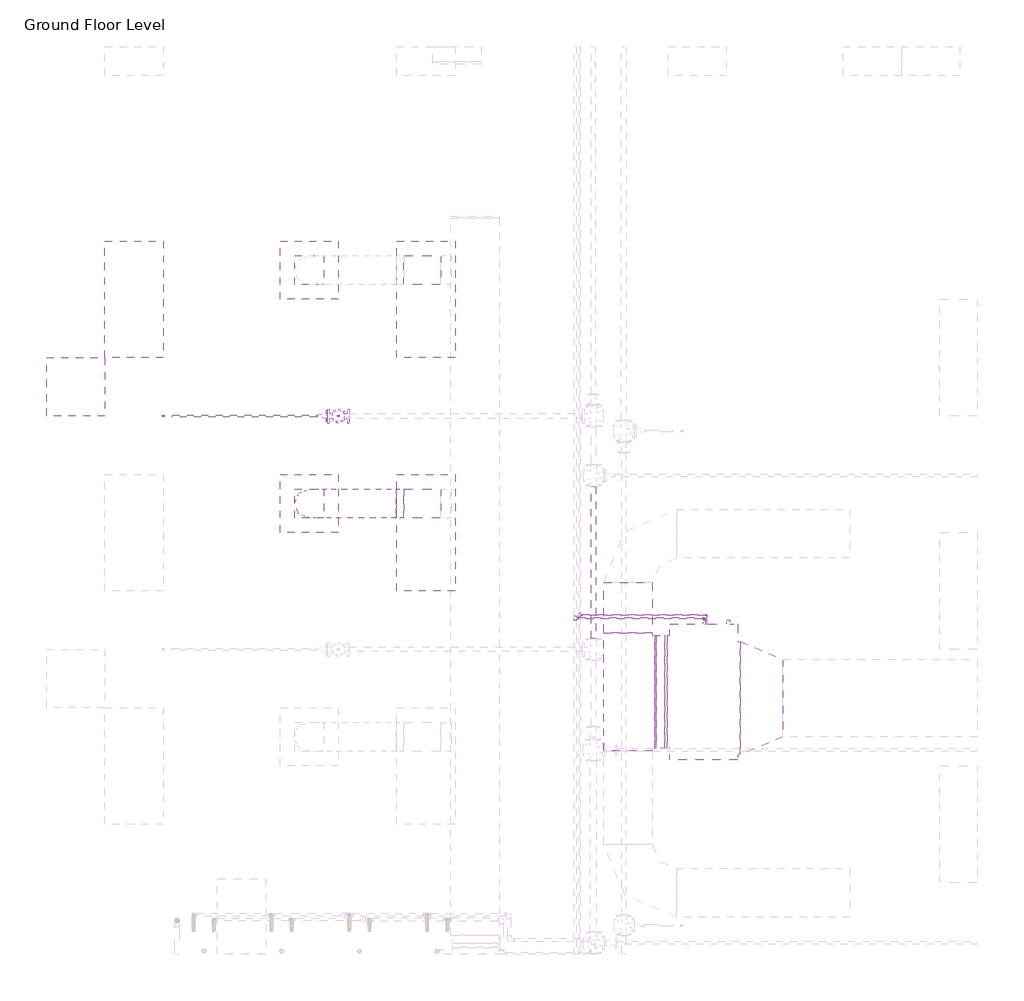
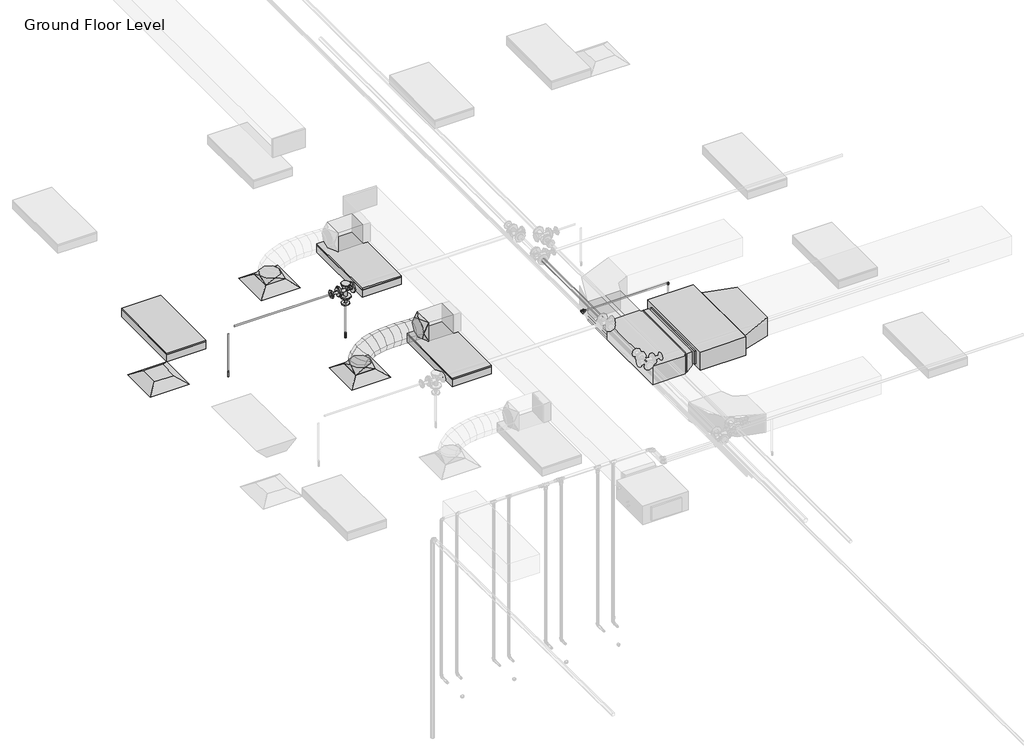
# One storey, part 25 of 66: 13 pipe fittings, 10 pipe segments, 7 duct fittings, 6 duct segments, 3 air terminals, 3 light fixtures, 2 fire suppression terminals, 1 proxy.
"""IFC4 building model written with IfcOpenShell, lengths in millimetres."""

from ifc_helpers import new_model, si_unit, point, frame, frame_2d, origin, place, context, project, spatial, polyline, circle_curve, ellipse_curve, trimmed, segment, composite_curve, outline, extrude, transform, mapped, element, save
from ifc_brep_helpers import plane_surface, cylinder_surface, advanced_brep
from components import m_return_diffuser_600_x_600_face_300_x_300_connection_ff221211, fcu_daikin_iu_5a1bd61d, m_rectangular_tee_standard_c717c13b, m_rectangular_transition_angle_45_degree_d2868699, m_rectangular_transition_angle_45_degree_3270bfc3, m_rectangular_transition_angle_45_degree_83bbb609, m_rectangular_to_round_transition_angle_45_degree_641efff0, m_sprinkler_dry_pendent_hosted_15_mm_dry_pendent_9bda8e11, m_troffer_light_parabolic_rectangular1_0600x1200mm_4_lamp_86473d4a, m_elbow_generic_standard_a088f956, m_elbow_generic_standard_2a704253, m_elbow_generic_standard_411ee063, m_elbow_generic_standard_a67d3ed8, m_reducer_flanged_cs_class_150_standard_dc68ad9d, m_tee_generic_standard_5b2ed4d4, m_tee_generic_standard_5078887e, m_tee_round_base_flanged_cs_class_150_standard_ab36f383, m_transition_generic_standard_5f8a9689, m_transition_generic_standard_bdcfe2c1, m_transition_generic_standard_44e35838, m_transition_generic_standard_570aa73b

model = new_model("IFC4")

# Units and contexts
model_context = context("Model", 3, world=origin())
ifc_project = project(units=[si_unit("LENGTHUNIT", "METRE", prefix="MILLI")], contexts=[model_context])

# Site, building, storey
site = spatial("IfcSite", under=ifc_project)
building = spatial("IfcBuilding", under=site)
storey = spatial("IfcBuildingStorey", under=building, Name="Ground Floor Level", Elevation=900.0)

# Air terminals
placement = place(None, origin())
m_return_diffuser_600_x_600_face_300_x_300_connection_shape = m_return_diffuser_600_x_600_face_300_x_300_connection_ff221211(model_context)
element("IfcAirTerminal", 1, ObjectType="M_Return Diffuser : 600 x 600 Face 300 x 300 Connection", at=placement, inside=storey, context=model_context, shape_type="MappedRepresentation", body=[
    mapped(m_return_diffuser_600_x_600_face_300_x_300_connection_shape, transform((362.7672395, -18364.7846466, 3650.0), x_axis=(1.0, 0.0, 0.0), y_axis=(0.0, 1.0, 0.0), z_axis=(0.0, 0.0, 1.0))),
])
element("IfcAirTerminal", 2, ObjectType="M_Supply Diffuser : 600 x 600 Face 300 x 300 Connection", at=placement, inside=storey, context=model_context, shape_type="MappedRepresentation", body=[
    mapped(m_return_diffuser_600_x_600_face_300_x_300_connection_shape, transform((2762.7672395, -17164.7846466, 3650.0), x_axis=(1.0, 0.0, 0.0), y_axis=(0.0, 1.0, 0.0), z_axis=(0.0, 0.0, 1.0))),
])
element("IfcAirTerminal", 3, ObjectType="M_Supply Diffuser : 600 x 600 Face 300 x 300 Connection", at=placement, inside=storey, context=model_context, shape_type="MappedRepresentation", body=[
    mapped(m_return_diffuser_600_x_600_face_300_x_300_connection_shape, transform((2762.7672395, -19564.7846466, 3650.0), x_axis=(1.0, 0.0, 0.0), y_axis=(0.0, 1.0, 0.0), z_axis=(0.0, 0.0, 1.0))),
])

# Proxy
fcu_daikin_iu_shape = fcu_daikin_iu_5a1bd61d(model_context)
element("IfcBuildingElementProxy", 4, Name="FCU-DAIKIN IU : 9kW, 230V/50Hz/1Ph", ObjectType="FCU-DAIKIN IU : 9kW, 230V/50Hz/1Ph", at=placement, inside=storey, context=model_context, shape_type="MappedRepresentation", body=[
    mapped(fcu_daikin_iu_shape, transform((6820.4959647, -21503.0689179, 3984.0882279), x_axis=(0.0, 1.0, 0.0), y_axis=(-1.0, 0.0, 0.0), z_axis=(0.0, 0.0, 1.0))),
])

# Duct fittings
m_rectangular_tee_standard_shape = m_rectangular_tee_standard_c717c13b(model_context)
element("IfcDuctFitting", 5, ObjectType="M_Rectangular Tee : Standard", at=placement, inside=storey, context=model_context, shape_type="MappedRepresentation", body=[
    mapped(m_rectangular_tee_standard_shape, transform((6040.9973279, -21503.0689179, 4082.4405262), x_axis=(0.0, -1.0, 0.0), y_axis=(-1.0, 0.0, 0.0), z_axis=(0.0, 0.0, -1.0))),
])
m_rectangular_transition_angle_45_degree_shape = m_rectangular_transition_angle_45_degree_d2868699(model_context)
element("IfcDuctFitting", 6, ObjectType="M_Rectangular Transition - Angle : 45 Degree", at=placement, inside=storey, context=model_context, shape_type="MappedRepresentation", body=[
    mapped(m_rectangular_transition_angle_45_degree_shape, transform((7195.8959647, -21566.5689179, 4150.0007279), x_axis=(1.0, 0.0, 0.0), y_axis=(0.0, 1.0, 0.0), z_axis=(0.0, 0.0, 1.0))),
])
m_rectangular_transition_angle_45_degree_2_shape = m_rectangular_transition_angle_45_degree_3270bfc3(model_context)
element("IfcDuctFitting", 7, ObjectType="M_Rectangular Transition - Angle : 45 Degree", at=placement, inside=storey, context=model_context, shape_type="MappedRepresentation", body=[
    mapped(m_rectangular_transition_angle_45_degree_2_shape, transform((6445.0959647, -21503.0689179, 4125.2882279), x_axis=(-1.0, 0.0, 0.0), y_axis=(0.0, -1.0, 0.0), z_axis=(0.0, 0.0, 1.0))),
])
m_rectangular_transition_angle_45_degree_3_shape = m_rectangular_transition_angle_45_degree_83bbb609(model_context)
element("IfcDuctFitting", 8, ObjectType="M_Rectangular Transition - Angle : 45 Degree", at=placement, inside=storey, context=model_context, shape_type="MappedRepresentation", body=[
    mapped(m_rectangular_transition_angle_45_degree_3_shape, transform((6416.9897764, -21503.0689179, 4125.4405264), x_axis=(-1.0, 0.0, 0.0), y_axis=(0.0, -1.0, 0.0), z_axis=(0.0, 0.0, 1.0))),
])
m_rectangular_to_round_transition_angle_45_degree_shape = m_rectangular_to_round_transition_angle_45_degree_641efff0(model_context)
element("IfcDuctFitting", 9, ObjectType="M_Rectangular to Round Transition - Angle : 45 Degree", at=placement, inside=storey, context=model_context, shape_type="MappedRepresentation", body=[
    mapped(m_rectangular_to_round_transition_angle_45_degree_shape, transform((2762.7672395, -17164.7846466, 3751.6), x_axis=(0.0, 0.0, 1.0), y_axis=(-1.0, 0.0, 0.0), z_axis=(0.0, -1.0, 0.0))),
])
element("IfcDuctFitting", 10, ObjectType="M_Rectangular to Round Transition - Angle : 45 Degree", at=placement, inside=storey, context=model_context, shape_type="MappedRepresentation", body=[
    mapped(m_rectangular_to_round_transition_angle_45_degree_shape, transform((2762.7672395, -19564.7846466, 3751.6), x_axis=(0.0, 0.0, 1.0), y_axis=(-1.0, 0.0, 0.0), z_axis=(0.0, -1.0, 0.0))),
])
element("IfcDuctFitting", 11, ObjectType="M_Rectangular to Round Transition - Angle : 45 Degree", at=placement, inside=storey, context=model_context, shape_type="MappedRepresentation", body=[
    mapped(m_rectangular_to_round_transition_angle_45_degree_shape, transform((3732.9552689, -19564.7846466, 4057.1479019), x_axis=(-1.0, 0.0, 0.0), y_axis=(0.0, -1.0, 0.0), z_axis=(0.0, 0.0, 1.0))),
])

# Duct segments
element("IfcDuctSegment", 12, ObjectType="Flex - Round", at=placement, inside=storey, context=model_context, shape_type="AdvancedBrep", body=[
    advanced_brep(
    [(2912.7672395, -19564.7846466, 3826.6), (2762.7672395, -19714.7846466, 3826.6), (2612.7672395, -19564.7846466, 3826.6), (2762.7672395, -19414.7846466, 3826.6), (2912.7672395, -19564.7846466, 3832.8904098), (2762.7672395, -19714.7846466, 3856.8495224), (2612.7672395, -19564.7846466, 3880.8086351), (2762.7672395, -19414.7846466, 3856.8495224), (2914.0858346, -19564.7846466, 3836.9127437), (2779.5129112, -19714.7846466, 3907.9316792), (2644.9399878, -19564.7846466, 3978.9506146), (2779.5129112, -19414.7846466, 3907.9316792), (2928.1335887, -19564.7846466, 3855.2238886), (2826.2860191, -19714.7846466, 3968.9000837), (2724.4384494, -19564.7846466, 4082.5762788), (2826.2860191, -19414.7846466, 3968.9000837), (2960.0751433, -19564.7846466, 3874.5771306), (2897.8907021, -19714.7846466, 4012.2850341), (2835.706261, -19564.7846466, 4149.9929377), (2897.8907021, -19414.7846466, 4012.2850341), (3023.3472749, -19564.7846466, 3894.3973079), (2989.1310994, -19714.7846466, 4040.8663511), (2954.9149239, -19564.7846466, 4187.3353943), (2989.1310994, -19414.7846466, 4040.8663511), (3111.2181676, -19564.7846466, 3908.1645223), (3094.81135, -19714.7846466, 4057.4238552), (3078.4045323, -19564.7846466, 4206.6831881), (3094.81135, -19414.7846466, 4057.4238552), (3215.0384102, -19564.7846466, 3914.7714012), (3209.7355929, -19714.7846466, 4064.7373669), (3204.4327755, -19564.7846466, 4214.7033325), (3209.7355929, -19414.7846466, 4064.7373669), (3327.4389939, -19564.7846466, 3915.5738253), (3328.7079672, -19714.7846466, 4065.5867068), (3329.9769404, -19564.7846466, 4215.5995883), (3328.7079672, -19414.7846466, 4065.5867068), (3442.2140413, -19564.7846466, 3912.8121913), (3446.5326119, -19714.7846466, 4062.7516956), (3450.8511825, -19564.7846466, 4212.6911999), (3446.5326119, -19414.7846466, 4062.7516956), (3554.0600336, -19564.7846466, 3909.0604079), (3558.0136661, -19714.7846466, 4059.0121538), (3561.9672986, -19564.7846466, 4208.9638996), (3558.0136661, -19414.7846466, 4059.0121538), (3657.9552689, -19564.7846466, 3907.1479019), (3657.9552689, -19414.7846466, 4057.1479019), (3657.9552689, -19564.7846466, 4207.1479019), (3657.9552689, -19714.7846466, 4057.1479019), (3653.7185823, -19564.7846466, 3907.1479019), (3655.1577438, -19714.7846466, 4057.1479019), (3656.5969053, -19564.7846466, 4207.1479019), (3655.1577438, -19414.7846466, 4057.1479019)],
    [
        (0, 1, circle_curve(frame((2762.7672395, -19564.7846466, 3826.6), z_axis=(0.0, 0.0, -1.0), x_axis=(1.0, 0.0, 0.0)), 150.0)),
        (1, 2, circle_curve(frame((2762.7672395, -19564.7846466, 3826.6), z_axis=(0.0, 0.0, -1.0), x_axis=(1.0, 0.0, 0.0)), 150.0)),
        (2, 3, circle_curve(frame((2762.7672395, -19564.7846466, 3826.6), z_axis=(0.0, 0.0, -1.0), x_axis=(1.0, 0.0, 0.0)), 150.0)),
        (3, 0, circle_curve(frame((2762.7672395, -19564.7846466, 3826.6), z_axis=(0.0, 0.0, -1.0), x_axis=(1.0, 0.0, 0.0)), 150.0)),
        (0, 4),
        (4, 5, ellipse_curve(frame((2762.7672395, -19564.7846466, 3856.8495224), z_axis=(-0.157728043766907, 0.0, -0.9874825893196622), x_axis=(0.9874825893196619, 0.0, -0.15772804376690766)), 151.9014124, 150.0)),
        (5, 1),
        (5, 6, ellipse_curve(frame((2762.7672395, -19564.7846466, 3856.8495224), z_axis=(-0.157728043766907, 0.0, -0.9874825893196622), x_axis=(0.9874825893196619, 0.0, -0.15772804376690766)), 151.9014124, 150.0)),
        (6, 2),
        (6, 7, ellipse_curve(frame((2762.7672395, -19564.7846466, 3856.8495224), z_axis=(-0.157728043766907, 0.0, -0.9874825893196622), x_axis=(0.9874825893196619, 0.0, -0.15772804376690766)), 151.9014124, 150.0)),
        (7, 3),
        (7, 4, ellipse_curve(frame((2762.7672395, -19564.7846466, 3856.8495224), z_axis=(-0.157728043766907, 0.0, -0.9874825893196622), x_axis=(0.9874825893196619, 0.0, -0.15772804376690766)), 151.9014124, 150.0)),
        (4, 8),
        (8, 9, ellipse_curve(frame((2779.5129112, -19564.7846466, 3907.9316792), z_axis=(-0.4667295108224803, 0.0, -0.8844001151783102), x_axis=(0.8844001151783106, 0.0, -0.46672951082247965)), 152.162942, 150.0)),
        (9, 5),
        (9, 10, ellipse_curve(frame((2779.5129112, -19564.7846466, 3907.9316792), z_axis=(-0.4667295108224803, 0.0, -0.8844001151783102), x_axis=(0.8844001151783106, 0.0, -0.46672951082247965)), 152.162942, 150.0)),
        (10, 6),
        (10, 11, ellipse_curve(frame((2779.5129112, -19564.7846466, 3907.9316792), z_axis=(-0.4667295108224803, 0.0, -0.8844001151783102), x_axis=(0.8844001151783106, 0.0, -0.46672951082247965)), 152.162942, 150.0)),
        (11, 7),
        (11, 8, ellipse_curve(frame((2779.5129112, -19564.7846466, 3907.9316792), z_axis=(-0.4667295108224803, 0.0, -0.8844001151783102), x_axis=(0.8844001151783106, 0.0, -0.46672951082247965)), 152.162942, 150.0)),
        (8, 12),
        (12, 13, ellipse_curve(frame((2826.2860191, -19564.7846466, 3968.9000837), z_axis=(-0.7447941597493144, 0.0, -0.667294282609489), x_axis=(0.6672942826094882, 0.0, -0.7447941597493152)), 152.6276671, 150.0)),
        (13, 9),
        (13, 14, ellipse_curve(frame((2826.2860191, -19564.7846466, 3968.9000837), z_axis=(-0.7447941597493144, 0.0, -0.667294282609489), x_axis=(0.6672942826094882, 0.0, -0.7447941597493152)), 152.6276671, 150.0)),
        (14, 10),
        (14, 15, ellipse_curve(frame((2826.2860191, -19564.7846466, 3968.9000837), z_axis=(-0.7447941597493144, 0.0, -0.667294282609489), x_axis=(0.6672942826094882, 0.0, -0.7447941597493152)), 152.6276671, 150.0)),
        (15, 11),
        (15, 12, ellipse_curve(frame((2826.2860191, -19564.7846466, 3968.9000837), z_axis=(-0.7447941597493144, 0.0, -0.667294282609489), x_axis=(0.6672942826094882, 0.0, -0.7447941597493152)), 152.6276671, 150.0)),
        (12, 16),
        (16, 17, ellipse_curve(frame((2897.8907021, -19564.7846466, 4012.2850341), z_axis=(-0.9113860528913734, 0.0, -0.4115525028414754), x_axis=(0.4115525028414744, 0.0, -0.911386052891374)), 151.097225, 150.0)),
        (17, 13),
        (17, 18, ellipse_curve(frame((2897.8907021, -19564.7846466, 4012.2850341), z_axis=(-0.9113860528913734, 0.0, -0.4115525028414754), x_axis=(0.4115525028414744, 0.0, -0.911386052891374)), 151.097225, 150.0)),
        (18, 14),
        (18, 19, ellipse_curve(frame((2897.8907021, -19564.7846466, 4012.2850341), z_axis=(-0.9113860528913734, 0.0, -0.4115525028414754), x_axis=(0.4115525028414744, 0.0, -0.911386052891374)), 151.097225, 150.0)),
        (19, 15),
        (19, 16, ellipse_curve(frame((2897.8907021, -19564.7846466, 4012.2850341), z_axis=(-0.9113860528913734, 0.0, -0.4115525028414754), x_axis=(0.4115525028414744, 0.0, -0.911386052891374)), 151.097225, 150.0)),
        (16, 20),
        (20, 21, ellipse_curve(frame((2989.1310994, -19564.7846466, 4040.8663511), z_axis=(-0.9737822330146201, 0.0, -0.2274822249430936), x_axis=(0.22748222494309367, 0.0, -0.9737822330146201)), 150.4125237, 150.0)),
        (21, 17),
        (21, 22, ellipse_curve(frame((2989.1310994, -19564.7846466, 4040.8663511), z_axis=(-0.9737822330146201, 0.0, -0.2274822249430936), x_axis=(0.22748222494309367, 0.0, -0.9737822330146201)), 150.4125237, 150.0)),
        (22, 18),
        (22, 23, ellipse_curve(frame((2989.1310994, -19564.7846466, 4040.8663511), z_axis=(-0.9737822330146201, 0.0, -0.2274822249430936), x_axis=(0.22748222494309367, 0.0, -0.9737822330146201)), 150.4125237, 150.0)),
        (23, 19),
        (23, 20, ellipse_curve(frame((2989.1310994, -19564.7846466, 4040.8663511), z_axis=(-0.9737822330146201, 0.0, -0.2274822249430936), x_axis=(0.22748222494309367, 0.0, -0.9737822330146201)), 150.4125237, 150.0)),
        (20, 24),
        (24, 25, ellipse_curve(frame((3094.81135, -19564.7846466, 4057.4238552), z_axis=(-0.9940128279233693, 0.0, -0.10926343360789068), x_axis=(0.10926343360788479, 0.0, -0.9940128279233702)), 150.1583568, 150.0)),
        (25, 21),
        (25, 26, ellipse_curve(frame((3094.81135, -19564.7846466, 4057.4238552), z_axis=(-0.9940128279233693, 0.0, -0.10926343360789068), x_axis=(0.10926343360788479, 0.0, -0.9940128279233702)), 150.1583568, 150.0)),
        (26, 22),
        (26, 27, ellipse_curve(frame((3094.81135, -19564.7846466, 4057.4238552), z_axis=(-0.9940128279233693, 0.0, -0.10926343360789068), x_axis=(0.10926343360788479, 0.0, -0.9940128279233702)), 150.1583568, 150.0)),
        (27, 23),
        (27, 24, ellipse_curve(frame((3094.81135, -19564.7846466, 4057.4238552), z_axis=(-0.9940128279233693, 0.0, -0.10926343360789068), x_axis=(0.10926343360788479, 0.0, -0.9940128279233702)), 150.1583568, 150.0)),
        (24, 28),
        (28, 29, ellipse_curve(frame((3209.7355929, -19564.7846466, 4064.7373669), z_axis=(-0.9993754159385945, 0.0, -0.03533805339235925), x_axis=(0.03533805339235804, 0.0, -0.9993754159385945)), 150.0596906, 150.0)),
        (29, 25),
        (29, 30, ellipse_curve(frame((3209.7355929, -19564.7846466, 4064.7373669), z_axis=(-0.9993754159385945, 0.0, -0.03533805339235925), x_axis=(0.03533805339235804, 0.0, -0.9993754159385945)), 150.0596906, 150.0)),
        (30, 26),
        (30, 31, ellipse_curve(frame((3209.7355929, -19564.7846466, 4064.7373669), z_axis=(-0.9993754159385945, 0.0, -0.03533805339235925), x_axis=(0.03533805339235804, 0.0, -0.9993754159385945)), 150.0596906, 150.0)),
        (31, 27),
        (31, 28, ellipse_curve(frame((3209.7355929, -19564.7846466, 4064.7373669), z_axis=(-0.9993754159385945, 0.0, -0.03533805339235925), x_axis=(0.03533805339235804, 0.0, -0.9993754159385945)), 150.0596906, 150.0)),
        (28, 32),
        (32, 33, ellipse_curve(frame((3328.7079672, -19564.7846466, 4065.5867068), z_axis=(-0.9999642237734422, 0.0, 0.008458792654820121), x_axis=(-0.008458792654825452, 0.0, -0.9999642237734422)), 150.0182486, 150.0)),
        (33, 29),
        (33, 34, ellipse_curve(frame((3328.7079672, -19564.7846466, 4065.5867068), z_axis=(-0.9999642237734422, 0.0, 0.008458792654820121), x_axis=(-0.008458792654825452, 0.0, -0.9999642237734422)), 150.0182486, 150.0)),
        (34, 30),
        (34, 35, ellipse_curve(frame((3328.7079672, -19564.7846466, 4065.5867068), z_axis=(-0.9999642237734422, 0.0, 0.008458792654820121), x_axis=(-0.008458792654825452, 0.0, -0.9999642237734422)), 150.0182486, 150.0)),
        (35, 31),
        (35, 32, ellipse_curve(frame((3328.7079672, -19564.7846466, 4065.5867068), z_axis=(-0.9999642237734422, 0.0, 0.008458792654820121), x_axis=(-0.008458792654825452, 0.0, -0.9999642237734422)), 150.0182486, 150.0)),
        (32, 36),
        (36, 37, ellipse_curve(frame((3446.5326119, -19564.7846466, 4062.7516956), z_axis=(-0.9995854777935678, 0.0, 0.02879014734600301), x_axis=(-0.028790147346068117, 0.0, -0.999585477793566)), 150.0016833, 150.0)),
        (37, 33),
        (37, 38, ellipse_curve(frame((3446.5326119, -19564.7846466, 4062.7516956), z_axis=(-0.9995854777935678, 0.0, 0.02879014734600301), x_axis=(-0.028790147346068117, 0.0, -0.999585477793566)), 150.0016833, 150.0)),
        (38, 34),
        (38, 39, ellipse_curve(frame((3446.5326119, -19564.7846466, 4062.7516956), z_axis=(-0.9995854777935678, 0.0, 0.02879014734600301), x_axis=(-0.028790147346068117, 0.0, -0.999585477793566)), 150.0016833, 150.0)),
        (39, 35),
        (39, 36, ellipse_curve(frame((3446.5326119, -19564.7846466, 4062.7516956), z_axis=(-0.9995854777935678, 0.0, 0.02879014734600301), x_axis=(-0.028790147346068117, 0.0, -0.999585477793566)), 150.0016833, 150.0)),
        (36, 40),
        (40, 41, ellipse_curve(frame((3558.0136661, -19564.7846466, 4059.0121538), z_axis=(-0.999652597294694, 0.0, 0.026356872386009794), x_axis=(0.02635687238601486, 0.0, 0.9996525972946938)), 150.0038576, 150.0)),
        (41, 37),
        (41, 42, ellipse_curve(frame((3558.0136661, -19564.7846466, 4059.0121538), z_axis=(-0.999652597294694, 0.0, 0.026356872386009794), x_axis=(0.02635687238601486, 0.0, 0.9996525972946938)), 150.0038576, 150.0)),
        (42, 38),
        (42, 43, ellipse_curve(frame((3558.0136661, -19564.7846466, 4059.0121538), z_axis=(-0.999652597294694, 0.0, 0.026356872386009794), x_axis=(0.02635687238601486, 0.0, 0.9996525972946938)), 150.0038576, 150.0)),
        (43, 39),
        (43, 40, ellipse_curve(frame((3558.0136661, -19564.7846466, 4059.0121538), z_axis=(-0.999652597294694, 0.0, 0.026356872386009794), x_axis=(0.02635687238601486, 0.0, 0.9996525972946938)), 150.0038576, 150.0)),
        (44, 45, circle_curve(frame((3657.9552689, -19564.7846466, 4057.1479019), z_axis=(1.0, 0.0, 0.0), x_axis=(0.0, 0.0, -1.0)), 150.0)),
        (45, 46, circle_curve(frame((3657.9552689, -19564.7846466, 4057.1479019), z_axis=(1.0, 0.0, 0.0), x_axis=(0.0, 0.0, -1.0)), 150.0)),
        (46, 47, circle_curve(frame((3657.9552689, -19564.7846466, 4057.1479019), z_axis=(1.0, 0.0, 0.0), x_axis=(0.0, 0.0, -1.0)), 150.0)),
        (47, 44, circle_curve(frame((3657.9552689, -19564.7846466, 4057.1479019), z_axis=(1.0, 0.0, 0.0), x_axis=(0.0, 0.0, -1.0)), 150.0)),
        (40, 48),
        (48, 49, ellipse_curve(frame((3655.1577438, -19564.7846466, 4057.1479019), z_axis=(-0.9999539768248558, 0.0, 0.009593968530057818), x_axis=(0.009593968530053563, 0.0, 0.9999539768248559)), 150.0069038, 150.0)),
        (49, 41),
        (49, 50, ellipse_curve(frame((3655.1577438, -19564.7846466, 4057.1479019), z_axis=(-0.9999539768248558, 0.0, 0.009593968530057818), x_axis=(0.009593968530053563, 0.0, 0.9999539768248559)), 150.0069038, 150.0)),
        (50, 42),
        (50, 51, ellipse_curve(frame((3655.1577438, -19564.7846466, 4057.1479019), z_axis=(-0.9999539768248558, 0.0, 0.009593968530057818), x_axis=(0.009593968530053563, 0.0, 0.9999539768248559)), 150.0069038, 150.0)),
        (51, 43),
        (51, 48, ellipse_curve(frame((3655.1577438, -19564.7846466, 4057.1479019), z_axis=(-0.9999539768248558, 0.0, 0.009593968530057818), x_axis=(0.009593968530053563, 0.0, 0.9999539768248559)), 150.0069038, 150.0)),
        (48, 44),
        (47, 49),
        (46, 50),
        (45, 51),
    ],
    [
        plane_surface(frame((2762.7672395, -19714.7846466, 3826.6), z_axis=(0.0, 0.0, -1.0), x_axis=(1.0, 0.0, 0.0))),
        cylinder_surface(frame((2762.7672395, -19564.7846466, 3826.6), z_axis=(0.0, 0.0, -1.0), x_axis=(1.0, 0.0, 0.0)), 150.0),
        cylinder_surface(frame((2762.7672395, -19564.7846466, 3856.8495224), z_axis=(-0.3115073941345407, 0.0, -0.9502437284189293), x_axis=(0.9502437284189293, 0.0, -0.3115073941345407)), 150.0),
        cylinder_surface(frame((2779.5129112, -19564.7846466, 3907.9316792), z_axis=(-0.6086828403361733, 0.0, -0.7934136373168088), x_axis=(0.7934136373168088, 0.0, -0.6086828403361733)), 150.0),
        cylinder_surface(frame((2826.2860191, -19564.7846466, 3968.9000837), z_axis=(-0.8552604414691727, 0.0, -0.5181983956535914), x_axis=(0.5181983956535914, 0.0, -0.8552604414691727)), 150.0),
        cylinder_surface(frame((2897.8907021, -19564.7846466, 4012.2850341), z_axis=(-0.9542752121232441, 0.0, -0.29892945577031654), x_axis=(0.29892945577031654, 0.0, -0.9542752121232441)), 150.0),
        cylinder_surface(frame((2989.1310994, -19564.7846466, 4040.8663511), z_axis=(-0.9879478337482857, 0.0, -0.1547872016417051), x_axis=(0.1547872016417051, 0.0, -0.9879478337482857)), 150.0),
        cylinder_surface(frame((3094.81135, -19564.7846466, 4057.4238552), z_axis=(-0.9979812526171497, 0.0, -0.06350920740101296), x_axis=(0.06350920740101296, 0.0, -0.9979812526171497)), 150.0),
        cylinder_surface(frame((3209.7355929, -19564.7846466, 4064.7373669), z_axis=(-0.999974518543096, 0.0, -0.007138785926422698), x_axis=(0.007138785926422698, 0.0, -0.999974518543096)), 150.0),
        cylinder_surface(frame((3328.7079672, -19564.7846466, 4065.5867068), z_axis=(-0.9997106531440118, 0.0, 0.024054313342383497), x_axis=(-0.024054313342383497, 0.0, -0.9997106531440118)), 150.0),
        cylinder_surface(frame((3446.5326119, -19564.7846466, 4062.7516956), z_axis=(-0.9994378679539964, 0.0, 0.0335253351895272), x_axis=(-0.0335253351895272, 0.0, -0.9994378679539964)), 150.0),
        plane_surface(frame((3657.9552689, -19564.7846466, 3907.1479019), z_axis=(1.0, 0.0, 0.0), x_axis=(0.0, 1.0, 0.0))),
        cylinder_surface(frame((3558.0136661, -19564.7846466, 4059.0121538), z_axis=(-0.9998159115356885, 0.0, 0.01918705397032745), x_axis=(-0.01918705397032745, 0.0, -0.9998159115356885)), 150.0),
        cylinder_surface(frame((3655.1577438, -19564.7846466, 4057.1479019), z_axis=(-1.0, 0.0, 0.0), x_axis=(0.0, 0.0, -1.0)), 150.0),
    ],
    [
        (0, [[1, 2, 3, 4]]),
        (1, [[-1, 5, 6, 7]]),
        (1, [[-2, -7, 8, 9]]),
        (1, [[-3, -9, 10, 11]]),
        (1, [[-4, -11, 12, -5]]),
        (2, [[-6, 13, 14, 15]]),
        (2, [[-8, -15, 16, 17]]),
        (2, [[-10, -17, 18, 19]]),
        (2, [[-12, -19, 20, -13]]),
        (3, [[-14, 21, 22, 23]]),
        (3, [[-16, -23, 24, 25]]),
        (3, [[-18, -25, 26, 27]]),
        (3, [[-20, -27, 28, -21]]),
        (4, [[-22, 29, 30, 31]]),
        (4, [[-24, -31, 32, 33]]),
        (4, [[-26, -33, 34, 35]]),
        (4, [[-28, -35, 36, -29]]),
        (5, [[-30, 37, 38, 39]]),
        (5, [[-32, -39, 40, 41]]),
        (5, [[-34, -41, 42, 43]]),
        (5, [[-36, -43, 44, -37]]),
        (6, [[-38, 45, 46, 47]]),
        (6, [[-40, -47, 48, 49]]),
        (6, [[-42, -49, 50, 51]]),
        (6, [[-44, -51, 52, -45]]),
        (7, [[-46, 53, 54, 55]]),
        (7, [[-48, -55, 56, 57]]),
        (7, [[-50, -57, 58, 59]]),
        (7, [[-52, -59, 60, -53]]),
        (8, [[-54, 61, 62, 63]]),
        (8, [[-56, -63, 64, 65]]),
        (8, [[-58, -65, 66, 67]]),
        (8, [[-60, -67, 68, -61]]),
        (9, [[-62, 69, 70, 71]]),
        (9, [[-64, -71, 72, 73]]),
        (9, [[-66, -73, 74, 75]]),
        (9, [[-68, -75, 76, -69]]),
        (10, [[-70, 77, 78, 79]]),
        (10, [[-72, -79, 80, 81]]),
        (10, [[-74, -81, 82, 83]]),
        (10, [[-76, -83, 84, -77]]),
        (11, [[85, 86, 87, 88]]),
        (12, [[-78, 89, 90, 91]]),
        (12, [[-80, -91, 92, 93]]),
        (12, [[-82, -93, 94, 95]]),
        (12, [[-84, -95, 96, -89]]),
        (13, [[-90, 97, -88, 98]]),
        (13, [[-92, -98, -87, 99]]),
        (13, [[-94, -99, -86, 100]]),
        (13, [[-96, -100, -85, -97]]),
    ],
),
])
element("IfcDuctSegment", 13, ObjectType="Radius Elbows / Taps", at=placement, inside=storey, context=model_context, shape_type="SweptSolid", body=[
    extrude(outline(polyline([(6290.9897768, -20897.5689179), (5790.9897768, -20897.5689179), (5790.9897768, -20377.6206315), (6290.9897768, -20377.6206315), (6290.9897768, -20897.5689179)])), frame((0.0, 0.0, 3932.4543707), z_axis=(0.0, 0.0, 1.0), x_axis=(1.0, 0.0, 0.0)), (0.0, 0.0, 1.0), 300.0),
])
element("IfcDuctSegment", 14, ObjectType="Radius Elbows / Taps", at=placement, inside=storey, context=model_context, shape_type="SweptSolid", body=[
    extrude(outline(polyline([(6315.9897764, -22083.5689179), (6315.9897764, -20922.5689179), (6330.9897764, -20922.5689179), (6330.9897764, -22083.5689179), (6315.9897764, -22083.5689179)])), frame((0.0, 0.0, 3932.4405264), z_axis=(0.0, 0.0, 1.0), x_axis=(1.0, 0.0, 0.0)), (0.0, 0.0, 1.0), 300.0),
])
element("IfcDuctSegment", 15, ObjectType="Radius Elbows / Taps", at=placement, inside=storey, context=model_context, shape_type="SweptSolid", body=[
    extrude(outline(polyline([(6444.798299, -20922.0689179), (6444.798299, -22084.0689179), (6416.9897764, -22084.0689179), (6416.9897764, -20922.0689179), (6444.798299, -20922.0689179)])), frame((0.0, 0.0, 4018.4405264), z_axis=(0.0, 0.0, 1.0), x_axis=(1.0, 0.0, 0.0)), (0.0, 0.0, 1.0), 214.0),
])
element("IfcDuctSegment", 16, ObjectType="Radius Elbows / Taps", at=placement, inside=storey, context=model_context, shape_type="SweptSolid", body=[
    extrude(outline(polyline([(4117.5581832, -19414.7846466), (4117.5581832, -19714.7846466), (3732.9552689, -19714.7846466), (3732.9552689, -19414.7846466), (4117.5581832, -19414.7846466)])), frame((0.0, 0.0, 3907.1479019), z_axis=(0.0, 0.0, 1.0), x_axis=(1.0, 0.0, 0.0)), (0.0, 0.0, 1.0), 300.0),
])
element("IfcDuctSegment", 17, ObjectType="Radius Elbows / Taps", at=placement, inside=storey, context=model_context, shape_type="SweptSolid", body=[
    extrude(outline(polyline([(4117.5581832, -17014.7846466), (4117.5581832, -17314.7846466), (3732.9593248, -17314.7846466), (3732.9593248, -17014.7846466), (4117.5581832, -17014.7846466)])), frame((0.0, 0.0, 3907.143846), z_axis=(0.0, 0.0, 1.0), x_axis=(1.0, 0.0, 0.0)), (0.0, 0.0, 1.0), 300.0),
])

# Fire suppression terminals
m_sprinkler_dry_pendent_hosted_15_mm_dry_pendent_shape = m_sprinkler_dry_pendent_hosted_15_mm_dry_pendent_9bda8e11(model_context)
element("IfcFireSuppressionTerminal", 18, ObjectType="M_Sprinkler - Dry - Pendent - Hosted : 15 mm Dry Pendent", at=placement, inside=storey, context=model_context, shape_type="MappedRepresentation", body=[
    mapped(m_sprinkler_dry_pendent_hosted_15_mm_dry_pendent_shape, transform((1262.7672395, -18664.7846466, 3650.0), x_axis=(1.0, 0.0, 0.0), y_axis=(0.0, -1.0, 0.0), z_axis=(0.0, 0.0, -1.0))),
])
element("IfcFireSuppressionTerminal", 19, ObjectType="M_Sprinkler - Dry - Pendent - Hosted : 15 mm Dry Pendent", at=placement, inside=storey, context=model_context, shape_type="MappedRepresentation", body=[
    mapped(m_sprinkler_dry_pendent_hosted_15_mm_dry_pendent_shape, transform((3062.7672395, -18664.7846466, 3650.0), x_axis=(1.0, 0.0, 0.0), y_axis=(0.0, -1.0, 0.0), z_axis=(0.0, 0.0, -1.0))),
])

# Light fixtures
m_troffer_light_parabolic_rectangular1_0600x1200mm_4_lamp_shape = m_troffer_light_parabolic_rectangular1_0600x1200mm_4_lamp_86473d4a(model_context)
element("IfcLightFixture", 20, ObjectType="M_Troffer Light - Parabolic Rectangular1 : 0600x1200mm(4 Lamp) - 277V 2", at=placement, inside=storey, context=model_context, shape_type="MappedRepresentation", body=[
    mapped(m_troffer_light_parabolic_rectangular1_0600x1200mm_4_lamp_shape, transform((903.3013074, -17446.081145, 3650.0), x_axis=(0.0, 1.0, 0.0), y_axis=(-1.0, 0.0, 0.0), z_axis=(0.0, 0.0, 1.0))),
])
element("IfcLightFixture", 21, ObjectType="M_Troffer Light - Parabolic Rectangular1 : 0600x1200mm(4 Lamp) - 277V 2", at=placement, inside=storey, context=model_context, shape_type="MappedRepresentation", body=[
    mapped(m_troffer_light_parabolic_rectangular1_0600x1200mm_4_lamp_shape, transform((3903.3013074, -17446.081145, 3650.0), x_axis=(0.0, 1.0, 0.0), y_axis=(-1.0, 0.0, 0.0), z_axis=(0.0, 0.0, 1.0))),
])
element("IfcLightFixture", 22, ObjectType="M_Troffer Light - Parabolic Rectangular1 : 0600x1200mm(4 Lamp) - 277V 2", at=placement, inside=storey, context=model_context, shape_type="MappedRepresentation", body=[
    mapped(m_troffer_light_parabolic_rectangular1_0600x1200mm_4_lamp_shape, transform((3903.3013074, -19846.081145, 3650.0), x_axis=(0.0, 1.0, 0.0), y_axis=(-1.0, 0.0, 0.0), z_axis=(0.0, 0.0, 1.0))),
])

# Pipe fittings
m_elbow_generic_standard_shape = m_elbow_generic_standard_a088f956(model_context)
element("IfcPipeFitting", 23, ObjectType="M_Elbow - Generic : Standard", at=placement, inside=storey, context=model_context, shape_type="MappedRepresentation", body=[
    mapped(m_elbow_generic_standard_shape, transform((6820.4959647, -20745.3977393, 4390.0), x_axis=(1.0, 0.0, 0.0), y_axis=(0.0, 0.0, -1.0), z_axis=(0.0, 1.0, 0.0))),
])
m_elbow_generic_standard_2_shape = m_elbow_generic_standard_2a704253(model_context)
element("IfcPipeFitting", 24, ObjectType="M_Elbow - Generic : Standard", at=placement, inside=storey, context=model_context, shape_type="MappedRepresentation", body=[
    mapped(m_elbow_generic_standard_2_shape, transform((6845.4959647, -20711.8462992, 4377.5), x_axis=(1.0, 0.0, 0.0), y_axis=(0.0, 0.0, -1.0), z_axis=(0.0, 1.0, 0.0))),
])
m_elbow_generic_standard_3_shape = m_elbow_generic_standard_411ee063(model_context)
element("IfcPipeFitting", 25, ObjectType="M_Elbow - Generic : Standard", at=placement, inside=storey, context=model_context, shape_type="MappedRepresentation", body=[
    mapped(m_elbow_generic_standard_3_shape, transform((6820.4959647, -20745.3896748, 4084.1050098), x_axis=(0.0, 0.0, -1.0), y_axis=(0.0, -1.0, 0.0), z_axis=(-1.0, 0.0, 0.0))),
])
m_elbow_generic_standard_4_shape = m_elbow_generic_standard_a67d3ed8(model_context)
element("IfcPipeFitting", 26, ObjectType="M_Elbow - Generic : Standard", at=placement, inside=storey, context=model_context, shape_type="MappedRepresentation", body=[
    mapped(m_elbow_generic_standard_4_shape, transform((6845.4959647, -20711.8400273, 4134.9034747), x_axis=(0.0, 0.0, -1.0), y_axis=(0.0, -1.0, 0.0), z_axis=(-1.0, 0.0, 0.0))),
])
m_reducer_flanged_cs_class_150_standard_shape = m_reducer_flanged_cs_class_150_standard_dc68ad9d(model_context)
element("IfcPipeFitting", 27, ObjectType="M_Reducer - Flanged - CS - Class 150 : Standard", at=placement, inside=storey, context=model_context, shape_type="MappedRepresentation", body=[
    mapped(m_reducer_flanged_cs_class_150_standard_shape, transform((2950.5086457, -18664.7846466, 4347.5), x_axis=(-1.0, 0.0, 0.0), y_axis=(0.0, 0.0, 1.0), z_axis=(0.0, 1.0, 0.0))),
])
element("IfcPipeFitting", 28, ObjectType="M_Reducer - Flanged - CS - Class 150 : Standard", at=placement, inside=storey, context=model_context, shape_type="MappedRepresentation", body=[
    mapped(m_reducer_flanged_cs_class_150_standard_shape, transform((3062.7672395, -18664.7846466, 4235.2414062), x_axis=(0.0, 0.0, -1.0), y_axis=(-1.0, 0.0, 0.0), z_axis=(0.0, 1.0, 0.0))),
])
m_tee_generic_standard_shape = m_tee_generic_standard_5b2ed4d4(model_context)
element("IfcPipeFitting", 29, ObjectType="M_Tee - Generic : Standard", at=placement, inside=storey, context=model_context, shape_type="MappedRepresentation", body=[
    mapped(m_tee_generic_standard_shape, transform((5543.9904113, -20711.8462992, 4377.5), x_axis=(0.0, -1.0, 0.0), y_axis=(-1.0, 0.0, 0.0), z_axis=(0.0, 0.0, -1.0))),
])
m_tee_generic_standard_2_shape = m_tee_generic_standard_5078887e(model_context)
element("IfcPipeFitting", 30, ObjectType="M_Tee - Generic : Standard", at=placement, inside=storey, context=model_context, shape_type="MappedRepresentation", body=[
    mapped(m_tee_generic_standard_2_shape, transform((5497.8951827, -20745.3977393, 4390.0), x_axis=(0.0, -1.0, 0.0), y_axis=(-1.0, 0.0, 0.0), z_axis=(0.0, 0.0, -1.0))),
])
m_tee_round_base_flanged_cs_class_150_standard_shape = m_tee_round_base_flanged_cs_class_150_standard_ab36f383(model_context)
element("IfcPipeFitting", 31, ObjectType="M_Tee Round Base - Flanged - CS - Class 150 : Standard", at=placement, inside=storey, context=model_context, shape_type="MappedRepresentation", body=[
    mapped(m_tee_round_base_flanged_cs_class_150_standard_shape, transform((3062.7672395, -18664.7846466, 4347.5), x_axis=(-1.0, 0.0, 0.0), y_axis=(0.0, 0.0, 1.0), z_axis=(0.0, 1.0, 0.0))),
])
m_transition_generic_standard_shape = m_transition_generic_standard_5f8a9689(model_context)
element("IfcPipeFitting", 32, ObjectType="M_Transition - Generic : Standard", at=placement, inside=storey, context=model_context, shape_type="MappedRepresentation", body=[
    mapped(m_transition_generic_standard_shape, transform((5497.8951827, -20721.5852393, 4390.0), x_axis=(0.0, 1.0, 0.0), y_axis=(-1.0, 0.0, 0.0), z_axis=(0.0, 0.0, 1.0))),
])
m_transition_generic_standard_2_shape = m_transition_generic_standard_bdcfe2c1(model_context)
element("IfcPipeFitting", 33, ObjectType="M_Transition - Generic : Standard", at=placement, inside=storey, context=model_context, shape_type="MappedRepresentation", body=[
    mapped(m_transition_generic_standard_2_shape, transform((5564.6279113, -20711.8462992, 4377.5), x_axis=(1.0, 0.0, 0.0), y_axis=(0.0, 1.0, 0.0), z_axis=(0.0, 0.0, 1.0))),
])
m_transition_generic_standard_3_shape = m_transition_generic_standard_44e35838(model_context)
element("IfcPipeFitting", 34, ObjectType="M_Transition - Generic : Standard", at=placement, inside=storey, context=model_context, shape_type="MappedRepresentation", body=[
    mapped(m_transition_generic_standard_3_shape, transform((5521.7076827, -20745.3977393, 4390.0), x_axis=(1.0, 0.0, 0.0), y_axis=(0.0, 1.0, 0.0), z_axis=(0.0, 0.0, 1.0))),
])
m_transition_generic_standard_4_shape = m_transition_generic_standard_570aa73b(model_context)
element("IfcPipeFitting", 35, ObjectType="M_Transition - Generic : Standard", at=placement, inside=storey, context=model_context, shape_type="MappedRepresentation", body=[
    mapped(m_transition_generic_standard_4_shape, transform((5543.9904113, -20691.2087992, 4377.5), x_axis=(0.0, 1.0, 0.0), y_axis=(-1.0, 0.0, 0.0), z_axis=(0.0, 0.0, 1.0))),
])

# Pipe segments
element("IfcPipeSegment", 36, ObjectType="Copper", at=placement, inside=storey, context=model_context, shape_type="SweptSolid", body=[
    extrude(outline(composite_curve([segment(trimmed(circle_curve(frame_2d((-20711.8462992, 4377.5)), 3.35), [point((-20715.1962992, 4377.5))], [point((-20711.8462992, 4380.85))], False, "CARTESIAN"), True, "CONTINUOUS"), segment(trimmed(circle_curve(frame_2d((-20711.8462992, 4377.5)), 3.35), [point((-20711.8462992, 4380.85))], [point((-20708.4962992, 4377.5))], False, "CARTESIAN"), True, "CONTINUOUS"), segment(trimmed(circle_curve(frame_2d((-20711.8462992, 4377.5)), 3.35), [point((-20708.4962992, 4377.5))], [point((-20711.8462992, 4374.15))], False, "CARTESIAN"), True, "CONTINUOUS"), segment(trimmed(circle_curve(frame_2d((-20711.8462992, 4377.5)), 3.35), [point((-20711.8462992, 4374.15))], [point((-20715.1962992, 4377.5))], False, "CARTESIAN"), True, "CONTINUOUS")], self_intersect=False)), frame((5568.5966613, 0.0, 0.0), z_axis=(1.0, 0.0, 0.0), x_axis=(0.0, 1.0, 0.0)), (0.0, 0.0, 1.0), 1265.7618034),
])
element("IfcPipeSegment", 37, ObjectType="Copper", at=placement, inside=storey, context=model_context, shape_type="SweptSolid", body=[
    extrude(outline(composite_curve([segment(trimmed(circle_curve(frame_2d((-20745.3977393, 4390.0)), 6.5), [point((-20751.8977393, 4390.0))], [point((-20745.3977393, 4396.5))], False, "CARTESIAN"), True, "CONTINUOUS"), segment(trimmed(circle_curve(frame_2d((-20745.3977393, 4390.0)), 6.5), [point((-20745.3977393, 4396.5))], [point((-20738.8977393, 4390.0))], False, "CARTESIAN"), True, "CONTINUOUS"), segment(trimmed(circle_curve(frame_2d((-20745.3977393, 4390.0)), 6.5), [point((-20738.8977393, 4390.0))], [point((-20745.3977393, 4383.5))], False, "CARTESIAN"), True, "CONTINUOUS"), segment(trimmed(circle_curve(frame_2d((-20745.3977393, 4390.0)), 6.5), [point((-20745.3977393, 4383.5))], [point((-20751.8977393, 4390.0))], False, "CARTESIAN"), True, "CONTINUOUS")], self_intersect=False)), frame((5527.2639327, 0.0, 0.0), z_axis=(1.0, 0.0, 0.0), x_axis=(0.0, 1.0, 0.0)), (0.0, 0.0, 1.0), 1278.9445321),
])
element("IfcPipeSegment", 38, ObjectType="Copper", at=placement, inside=storey, context=model_context, shape_type="SweptSolid", body=[
    extrude(outline(composite_curve([segment(trimmed(circle_curve(frame_2d((0.0, -6.5)), 6.5), [point((-6.5, -6.5))], [point((0.0, 0.0))], False, "CARTESIAN"), True, "CONTINUOUS"), segment(trimmed(circle_curve(frame_2d((0.0, -6.5)), 6.5), [point((0.0, 0.0))], [point((6.5, -6.5))], False, "CARTESIAN"), True, "CONTINUOUS"), segment(trimmed(circle_curve(frame_2d((0.0, -6.5)), 6.5), [point((6.5, -6.5))], [point((0.0, -13.0))], False, "CARTESIAN"), True, "CONTINUOUS"), segment(trimmed(circle_curve(frame_2d((0.0, -6.5)), 6.5), [point((0.0, -13.0))], [point((-6.5, -6.5))], False, "CARTESIAN"), True, "CONTINUOUS")], self_intersect=False)), frame((6820.4959647, -20764.9497842, 4077.5882561), z_axis=(0.0, 0.9999956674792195, 0.0029436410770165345), x_axis=(1.0, 0.0, 0.0)), (0.0, 0.0, 1.0), 5.2929673),
])
element("IfcPipeSegment", 39, ObjectType="Copper", at=placement, inside=storey, context=model_context, shape_type="SweptSolid", body=[
    extrude(outline(composite_curve([segment(trimmed(circle_curve(frame_2d((0.0, -3.35)), 3.35), [point((0.0, 0.0))], [point((3.35, -3.35))], False, "CARTESIAN"), True, "CONTINUOUS"), segment(trimmed(circle_curve(frame_2d((0.0, -3.35)), 3.35), [point((3.35, -3.35))], [point((0.0, -6.7))], False, "CARTESIAN"), True, "CONTINUOUS"), segment(trimmed(circle_curve(frame_2d((0.0, -3.35)), 3.35), [point((0.0, -6.7))], [point((-3.35, -3.35))], False, "CARTESIAN"), True, "CONTINUOUS"), segment(trimmed(circle_curve(frame_2d((0.0, -3.35)), 3.35), [point((-3.35, -3.35))], [point((0.0, 0.0))], False, "CARTESIAN"), True, "CONTINUOUS")], self_intersect=False)), frame((6842.1459647, -20764.9689179, 4134.8882279), z_axis=(0.0, 0.9999999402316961, 0.00034574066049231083), x_axis=(0.0, 0.00034574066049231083, -0.9999999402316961)), (0.0, 0.0, 1.0), 41.9921215),
])
element("IfcPipeSegment", 40, ObjectType="Copper", at=placement, inside=storey, context=model_context, shape_type="SweptSolid", body=[
    extrude(outline(composite_curve([segment(trimmed(circle_curve(frame_2d((0.0, -6.5)), 6.5), [point((-6.5, -6.5))], [point((0.0, 0.0))], False, "CARTESIAN"), True, "CONTINUOUS"), segment(trimmed(circle_curve(frame_2d((0.0, -6.5)), 6.5), [point((0.0, 0.0))], [point((6.5, -6.5))], False, "CARTESIAN"), True, "CONTINUOUS"), segment(trimmed(circle_curve(frame_2d((0.0, -6.5)), 6.5), [point((6.5, -6.5))], [point((0.0, -13.0))], False, "CARTESIAN"), True, "CONTINUOUS"), segment(trimmed(circle_curve(frame_2d((0.0, -6.5)), 6.5), [point((0.0, -13.0))], [point((-6.5, -6.5))], False, "CARTESIAN"), True, "CONTINUOUS")], self_intersect=False)), frame((6820.4959647, -20751.8896748, 4098.3911194), z_axis=(0.0, -2.907973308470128e-05, 0.9999999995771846), x_axis=(-1.0, 0.0, 0.0)), (0.0, 0.0, 1.0), 277.3211917),
])
element("IfcPipeSegment", 41, ObjectType="Copper", at=placement, inside=storey, context=model_context, shape_type="SweptSolid", body=[
    extrude(outline(composite_curve([segment(trimmed(circle_curve(frame_2d((0.0, -3.35)), 3.35), [point((-3.35, -3.35))], [point((0.0, 0.0))], False, "CARTESIAN"), True, "CONTINUOUS"), segment(trimmed(circle_curve(frame_2d((0.0, -3.35)), 3.35), [point((0.0, 0.0))], [point((3.35, -3.35))], False, "CARTESIAN"), True, "CONTINUOUS"), segment(trimmed(circle_curve(frame_2d((0.0, -3.35)), 3.35), [point((3.35, -3.35))], [point((0.0, -6.7))], False, "CARTESIAN"), True, "CONTINUOUS"), segment(trimmed(circle_curve(frame_2d((0.0, -3.35)), 3.35), [point((0.0, -6.7))], [point((-3.35, -3.35))], False, "CARTESIAN"), True, "CONTINUOUS")], self_intersect=False)), frame((6845.4959647, -20715.1900273, 4146.0401509), z_axis=(0.0, -2.8466951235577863e-05, 0.9999999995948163), x_axis=(-1.0, 0.0, 0.0)), (0.0, 0.0, 1.0), 220.3222538),
])
element("IfcPipeSegment", 42, ObjectType="Steel flanged", at=placement, inside=storey, context=model_context, shape_type="SweptSolid", body=[
    extrude(outline(composite_curve([segment(trimmed(circle_curve(frame_2d((1262.7672395, -18664.7846466)), 10.668), [point((1252.0992395, -18664.7846466))], [point((1262.7672395, -18654.1166466))], False, "CARTESIAN"), True, "CONTINUOUS"), segment(trimmed(circle_curve(frame_2d((1262.7672395, -18664.7846466)), 10.668), [point((1262.7672395, -18654.1166466))], [point((1273.4352395, -18664.7846466))], False, "CARTESIAN"), True, "CONTINUOUS"), segment(trimmed(circle_curve(frame_2d((1262.7672395, -18664.7846466)), 10.668), [point((1273.4352395, -18664.7846466))], [point((1262.7672395, -18675.4526466))], False, "CARTESIAN"), True, "CONTINUOUS"), segment(trimmed(circle_curve(frame_2d((1262.7672395, -18664.7846466)), 10.668), [point((1262.7672395, -18675.4526466))], [point((1252.0992395, -18664.7846466))], False, "CARTESIAN"), True, "CONTINUOUS")], self_intersect=False)), frame((0.0, 0.0, 3650.0), z_axis=(0.0, 0.0, 1.0), x_axis=(1.0, 0.0, 0.0)), (0.0, 0.0, 1.0), 604.4914062),
])
element("IfcPipeSegment", 43, ObjectType="Steel flanged", at=placement, inside=storey, context=model_context, shape_type="SweptSolid", body=[
    extrude(outline(composite_curve([segment(trimmed(circle_curve(frame_2d((4347.5, 5684.6174894)), 24.13), [point((4347.5, 5708.7474894))], [point((4371.63, 5684.6174894))], False, "CARTESIAN"), True, "CONTINUOUS"), segment(trimmed(circle_curve(frame_2d((4347.5, 5684.6174894)), 24.13), [point((4371.63, 5684.6174894))], [point((4347.5, 5660.4874894))], False, "CARTESIAN"), True, "CONTINUOUS"), segment(trimmed(circle_curve(frame_2d((4347.5, 5684.6174894)), 24.13), [point((4347.5, 5660.4874894))], [point((4323.37, 5684.6174894))], False, "CARTESIAN"), True, "CONTINUOUS"), segment(trimmed(circle_curve(frame_2d((4347.5, 5684.6174894)), 24.13), [point((4323.37, 5684.6174894))], [point((4347.5, 5708.7474894))], False, "CARTESIAN"), True, "CONTINUOUS")], self_intersect=False)), frame((0.0, -20952.5260529, 0.0), z_axis=(0.0, 1.0, 0.0), x_axis=(0.0, 0.0, 1.0)), (0.0, 0.0, 1.0), 1564.3818468),
])
element("IfcPipeSegment", 44, ObjectType="Steel flanged", at=placement, inside=storey, context=model_context, shape_type="SweptSolid", body=[
    extrude(outline(composite_curve([segment(trimmed(circle_curve(frame_2d((3062.7672395, -18664.7846466)), 10.668), [point((3052.0992395, -18664.7846466))], [point((3062.7672395, -18654.1166466))], False, "CARTESIAN"), True, "CONTINUOUS"), segment(trimmed(circle_curve(frame_2d((3062.7672395, -18664.7846466)), 10.668), [point((3062.7672395, -18654.1166466))], [point((3073.4352395, -18664.7846466))], False, "CARTESIAN"), True, "CONTINUOUS"), segment(trimmed(circle_curve(frame_2d((3062.7672395, -18664.7846466)), 10.668), [point((3073.4352395, -18664.7846466))], [point((3062.7672395, -18675.4526466))], False, "CARTESIAN"), True, "CONTINUOUS"), segment(trimmed(circle_curve(frame_2d((3062.7672395, -18664.7846466)), 10.668), [point((3062.7672395, -18675.4526466))], [point((3052.0992395, -18664.7846466))], False, "CARTESIAN"), True, "CONTINUOUS")], self_intersect=False)), frame((0.0, 0.0, 3650.0), z_axis=(0.0, 0.0, 1.0), x_axis=(1.0, 0.0, 0.0)), (0.0, 0.0, 1.0), 471.2414062),
])
element("IfcPipeSegment", 45, ObjectType="Steel flanged", at=placement, inside=storey, context=model_context, shape_type="SweptSolid", body=[
    extrude(outline(composite_curve([segment(trimmed(circle_curve(frame_2d((-18664.7846466, 4347.5)), 10.668), [point((-18675.4526466, 4347.5))], [point((-18664.7846466, 4358.168))], False, "CARTESIAN"), True, "CONTINUOUS"), segment(trimmed(circle_curve(frame_2d((-18664.7846466, 4347.5)), 10.668), [point((-18664.7846466, 4358.168))], [point((-18654.1166466, 4347.5))], False, "CARTESIAN"), True, "CONTINUOUS"), segment(trimmed(circle_curve(frame_2d((-18664.7846466, 4347.5)), 10.668), [point((-18654.1166466, 4347.5))], [point((-18664.7846466, 4336.832))], False, "CARTESIAN"), True, "CONTINUOUS"), segment(trimmed(circle_curve(frame_2d((-18664.7846466, 4347.5)), 10.668), [point((-18664.7846466, 4336.832))], [point((-18675.4526466, 4347.5))], False, "CARTESIAN"), True, "CONTINUOUS")], self_intersect=False)), frame((1355.7758332, 0.0, 0.0), z_axis=(1.0, 0.0, 0.0), x_axis=(0.0, 1.0, 0.0)), (0.0, 0.0, 1.0), 1480.7328125),
])

save(model, "model.ifc")
